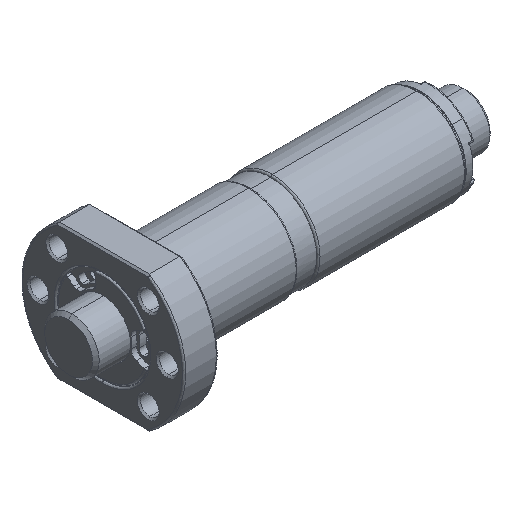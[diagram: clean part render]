
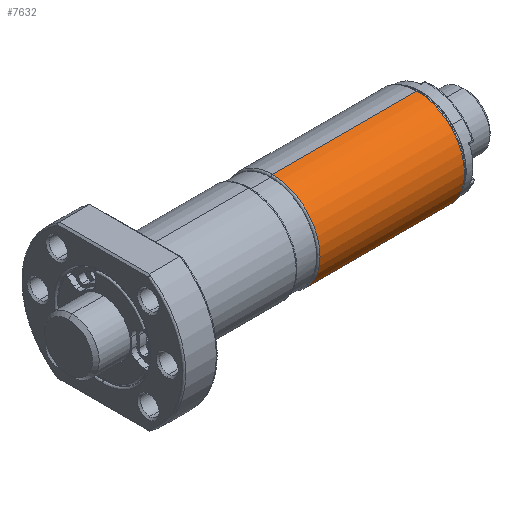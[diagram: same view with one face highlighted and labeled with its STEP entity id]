
A CAD part, isometric view. The second image highlights one B-rep face of the part: STEP entity #7632.
In plain terms, the highlighted cylindrical face has radius 14 mm (diameter 28 mm), a partial arc.
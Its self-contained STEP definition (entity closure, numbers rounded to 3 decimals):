
#53 = EDGE_CURVE ( 'NONE', #6889, #9322, #2066, .T. ) ;
#288 = CARTESIAN_POINT ( 'NONE',  ( 93., 0., 14. ) ) ;
#305 = VERTEX_POINT ( 'NONE', #9294 ) ;
#1264 = CARTESIAN_POINT ( 'NONE',  ( 93., 0., 0. ) ) ;
#1353 = CARTESIAN_POINT ( 'NONE',  ( 50., 0., 0. ) ) ;
#1376 = DIRECTION ( 'NONE',  ( 0., 0., 1. ) ) ;
#1402 = CARTESIAN_POINT ( 'NONE',  ( 93., 0., -14. ) ) ;
#1851 = DIRECTION ( 'NONE',  ( -1., 0., 0. ) ) ;
#1926 = CIRCLE ( 'NONE', #9025, 14. ) ;
#2065 = EDGE_CURVE ( 'NONE', #305, #8519, #1926, .T. ) ;
#2066 = CIRCLE ( 'NONE', #8828, 14. ) ;
#2143 = DIRECTION ( 'NONE',  ( 1., 0., 0. ) ) ;
#2162 = DIRECTION ( 'NONE',  ( -1., 0., 0. ) ) ;
#2527 = ORIENTED_EDGE ( 'NONE', *, *, #53, .T. ) ;
#2930 = ORIENTED_EDGE ( 'NONE', *, *, #2065, .T. ) ;
#3034 = EDGE_LOOP ( 'NONE', ( #3656, #2930, #3287, #2527 ) ) ;
#3287 = ORIENTED_EDGE ( 'NONE', *, *, #6316, .T. ) ;
#3532 = LINE ( 'NONE', #288, #5104 ) ;
#3562 = EDGE_CURVE ( 'NONE', #305, #9322, #8467, .T. ) ;
#3656 = ORIENTED_EDGE ( 'NONE', *, *, #3562, .F. ) ;
#4093 = CARTESIAN_POINT ( 'NONE',  ( 50., 0., -14. ) ) ;
#4804 = CARTESIAN_POINT ( 'NONE',  ( 50., 0., 14. ) ) ;
#5104 = VECTOR ( 'NONE', #1851, 1000. ) ;
#5166 = VECTOR ( 'NONE', #8231, 1000. ) ;
#5329 = DIRECTION ( 'NONE',  ( 0., 0., 1. ) ) ;
#6076 = CARTESIAN_POINT ( 'NONE',  ( 92.5, 0., 0. ) ) ;
#6121 = CYLINDRICAL_SURFACE ( 'NONE', #9464, 14. ) ;
#6316 = EDGE_CURVE ( 'NONE', #8519, #6889, #3532, .T. ) ;
#6889 = VERTEX_POINT ( 'NONE', #4804 ) ;
#7220 = FACE_OUTER_BOUND ( 'NONE', #3034, .T. ) ;
#7632 = ADVANCED_FACE ( 'NONE', ( #7220 ), #6121, .T. ) ;
#7706 = DIRECTION ( 'NONE',  ( -1., 0., 0. ) ) ;
#8220 = CARTESIAN_POINT ( 'NONE',  ( 92.5, 0., 14. ) ) ;
#8231 = DIRECTION ( 'NONE',  ( -1., 0., 0. ) ) ;
#8467 = LINE ( 'NONE', #1402, #5166 ) ;
#8519 = VERTEX_POINT ( 'NONE', #8220 ) ;
#8828 = AXIS2_PLACEMENT_3D ( 'NONE', #1353, #2143, #5329 ) ;
#9025 = AXIS2_PLACEMENT_3D ( 'NONE', #6076, #2162, #1376 ) ;
#9294 = CARTESIAN_POINT ( 'NONE',  ( 92.5, 0., -14. ) ) ;
#9322 = VERTEX_POINT ( 'NONE', #4093 ) ;
#9464 = AXIS2_PLACEMENT_3D ( 'NONE', #1264, #7706, #10040 ) ;
#10040 = DIRECTION ( 'NONE',  ( 0., 0., 1. ) ) ;
